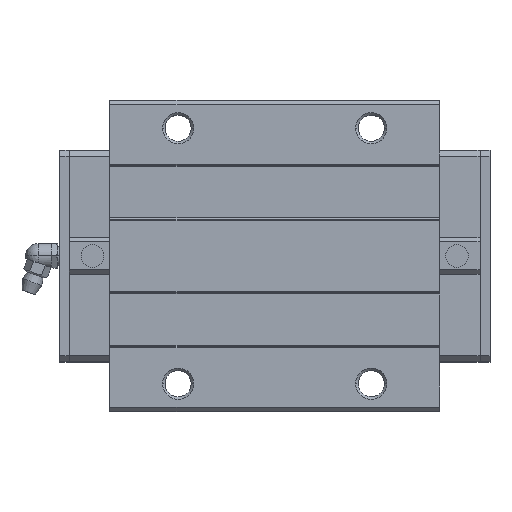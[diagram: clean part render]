
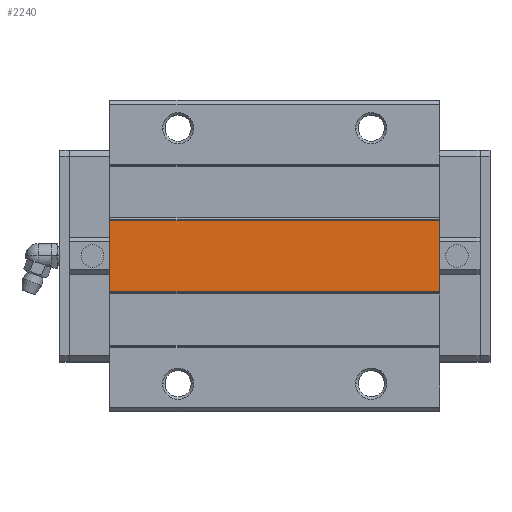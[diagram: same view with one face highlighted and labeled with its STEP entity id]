
A CAD part, top view. The second image highlights one B-rep face of the part: STEP entity #2240.
In plain terms, the highlighted planar face has unit normal (0, 0, 1).
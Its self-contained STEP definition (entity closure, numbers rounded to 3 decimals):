
#2179=CARTESIAN_POINT('POINT142',(122.,-11.5,
   40.5));
#2180=VERTEX_POINT('VERTEX142',#2179);
#2187=CARTESIAN_POINT('POINT143',(16.2,-11.5,
   40.5));
#2188=VERTEX_POINT('VERTEX143',#2187);
#2189=CARTESIAN_POINT('POS216',(16.2,-11.5,
   40.5));
#2190=DIRECTION('DIR310',(1.,0.,0.));
#2191=VECTOR('VEC122',#2190,1.);
#2192=LINE('STRAIGHT122',#2189,#2191);
#2193=EDGE_CURVE('EDGE210',#2188,#2180,#2192,.T.);
#2210=CARTESIAN_POINT('POINT144',(122.,11.5,40.5));
#2211=VERTEX_POINT('VERTEX144',#2210);
#2212=CARTESIAN_POINT('POS219',(122.,0.,40.5));
#2213=DIRECTION('DIR314',(0.,1.,0.));
#2214=VECTOR('VEC124',#2213,1.);
#2215=LINE('STRAIGHT124',#2212,#2214);
#2216=EDGE_CURVE('EDGE212',#2180,#2211,#2215,.T.);
#2217=ORIENTED_EDGE('COEDGE360',*,*,#2216,.T.);
#2218=CARTESIAN_POINT('POINT145',(16.2,11.5,40.5));
#2219=VERTEX_POINT('VERTEX145',#2218);
#2220=CARTESIAN_POINT('POS220',(16.2,11.5,40.5));
#2221=DIRECTION('DIR315',(1.,0.,0.));
#2222=VECTOR('VEC125',#2221,1.);
#2223=LINE('STRAIGHT125',#2220,#2222);
#2224=EDGE_CURVE('EDGE213',#2219,#2211,#2223,.T.);
#2225=ORIENTED_EDGE('COEDGE361',*,*,#2224,.F.);
#2226=CARTESIAN_POINT('POS221',(16.2,0.,40.5));
#2227=DIRECTION('DIR316',(0.,1.,0.));
#2228=VECTOR('VEC126',#2227,1.);
#2229=LINE('STRAIGHT126',#2226,#2228);
#2230=EDGE_CURVE('EDGE214',#2188,#2219,#2229,.T.);
#2231=ORIENTED_EDGE('COEDGE362',*,*,#2230,.F.);
#2232=ORIENTED_EDGE('COEDGE363',*,*,#2193,.T.);
#2233=EDGE_LOOP('NONE',(#2217,#2225,#2231,#2232));
#2234=FACE_BOUND('LOOP1',#2233,.T.);
#2235=CARTESIAN_POINT('POS222',(16.2,0.,40.5));
#2236=DIRECTION('DIR317',(0.,0.,1.));
#2237=DIRECTION('DIR318',(1.,0.,0.));
#2238=AXIS2_PLACEMENT_3D('AXIS96',#2235,#2236,#2237);
#2239=PLANE('PLANE26',#2238);
#2240=ADVANCED_FACE('FACE71',(#2234),#2239,.T.);
